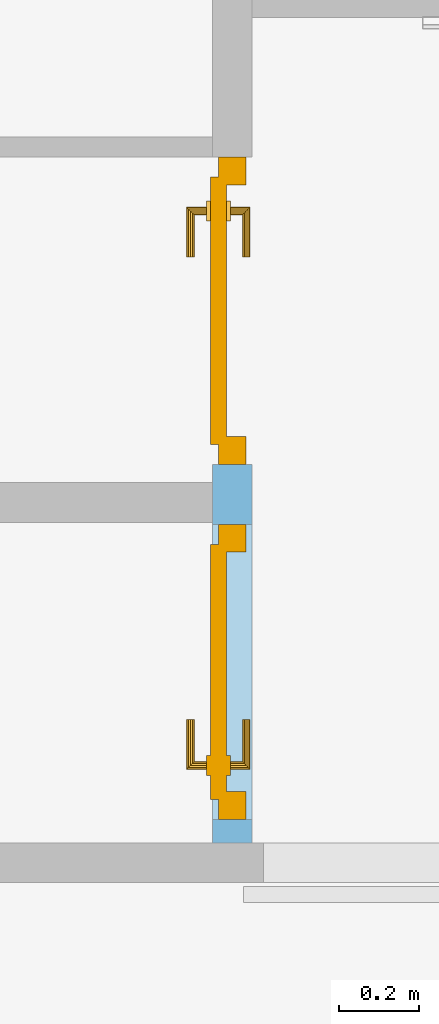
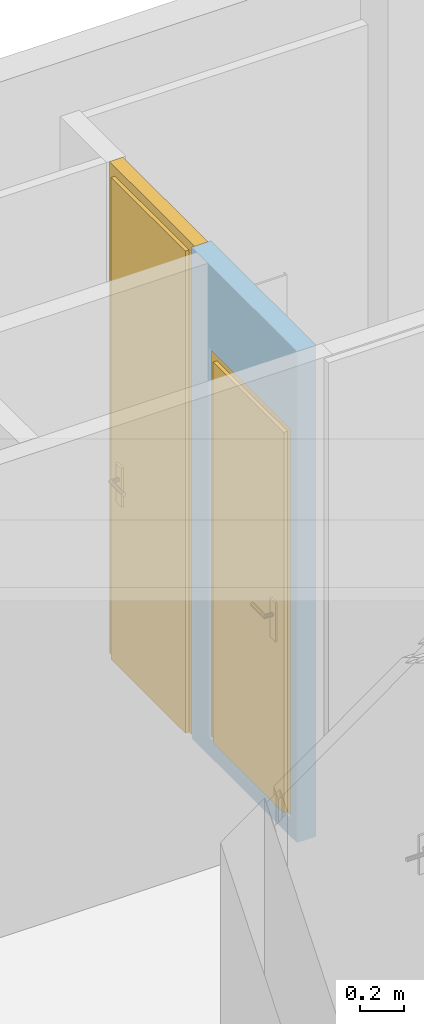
"""IFC4 building model written with IfcOpenShell, lengths in metres."""

from ifc_helpers import new_model, entity, si_unit, converted_unit, derived_unit, frame, origin, origin_with_axes, place, context, subcontext, project, spatial, polyline, outline, extrude, faceted_brep, source, transform, mapped, material, layer, layer_set, layer_usage, element, fill, save


model = new_model("IFC4")

# Units and contexts
model_context = context("Model", 3, precision=1e-05, world=origin())
body_context = subcontext(model_context, "Body", "Model", "MODEL_VIEW")
ifc_project = project(units=[si_unit("LENGTHUNIT", "METRE"), si_unit("AREAUNIT", "SQUARE_METRE"), si_unit("VOLUMEUNIT", "CUBIC_METRE"), si_unit("MASSUNIT", "GRAM", prefix="KILO"), converted_unit("PLANEANGLEUNIT", "DEGREE", entity("IfcPlaneAngleMeasure", 0.0174532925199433), si_unit("PLANEANGLEUNIT", "RADIAN"), dimensions=[0, 0, 0, 0, 0, 0, 0]), derived_unit("THERMALTRANSMITTANCEUNIT", [(si_unit("POWERUNIT", "WATT"), 1), (si_unit("THERMODYNAMICTEMPERATUREUNIT", "KELVIN"), -1), (si_unit("LENGTHUNIT", "METRE"), -2)]), derived_unit("VOLUMETRICFLOWRATEUNIT", [(si_unit("LENGTHUNIT", "METRE"), 3), (converted_unit("TIMEUNIT", "hour", entity("IfcTimeMeasure", 3600.0), si_unit("TIMEUNIT", "SECOND"), dimensions=[0, 0, 1, 0, 0, 0, 0]), -1), (si_unit("LENGTHUNIT", "METRE"), -1)])], contexts=[model_context])

# Building, storeys
building_placement = place(None, origin())
building = spatial("IfcBuilding", under=ifc_project, at=building_placement, Name="HABITATGE PLURIFAMILIAR", CompositionType="ELEMENT")
storey_1_placement = place(building_placement, frame((0.0, 0.0, 12.27)))
storey_1 = spatial("IfcBuildingStorey", under=building, at=storey_1_placement, Name="PLANTA TERCERA", CompositionType="ELEMENT", Elevation=12.27)
storey_2_placement = place(storey_1_placement, frame((0.0, 0.0, 9.26)))
storey_2 = spatial("IfcBuildingStorey", under=storey_1, at=storey_2_placement, Name="NOU", CompositionType="PARTIAL")

# Wall, openings, doors
ifc_material = material()
ifc_layer = layer(ifc_material, 0.1)
ifc_layer_set = layer_set([ifc_layer])
ifc_layer_usage = layer_usage(ifc_layer_set, "AXIS2", "POSITIVE", 0.0)
wall_placement = place(storey_2_placement, frame((408.986984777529, 25.9294598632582, -9.36), z_axis=(0.0, 0.0, 1.0), x_axis=(0.0, 1.0, 0.0)))
wall = element("IfcWall", 1, at=wall_placement, inside=storey_2, material=ifc_layer_usage, Name="Evans P3", context=body_context, shape_type="SweptSolid", body=[
    extrude(outline(polyline([(0.0, -0.1), (1.72, -0.1), (1.72, 0.0), (0.904079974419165, 0.0), (0.804079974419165, 0.0), (0.0, 0.0), (0.0, -0.1)])), frame((0.0, 0.1, 0.0), z_axis=(0.0, 0.0, 1.0), x_axis=(1.0, 0.0, 0.0)), (0.0, 0.0, 1.0), 2.71),
])
opening_1_placement = place(wall_placement, frame((1.72, 0.1, 0.0), z_axis=(0.0, -1.0, 0.0), x_axis=(0.0, 0.0, 1.0)))
opening_1 = element("IfcOpeningElement", 2, at=opening_1_placement, cuts=wall, Name="Vano porta P3", ObjectType="Opening", context=body_context, shape_type="SweptSolid", body=[
    extrude(outline(polyline([(2.71, 0.771026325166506), (2.71, 0.0), (0.0, 0.0), (0.0, 0.771026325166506), (2.71, 0.771026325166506)])), origin_with_axes(), (0.0, 0.0, 1.0), 0.1),
])
opening_2_placement = place(wall_placement, frame((0.798973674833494, 0.1, 0.1), z_axis=(0.0, -1.0, 0.0), x_axis=(0.0, 0.0, 1.0)))
opening_2 = element("IfcOpeningElement", 3, at=opening_2_placement, cuts=wall, Name="Vano porta P3", ObjectType="Opening", context=body_context, shape_type="SweptSolid", body=[
    extrude(outline(polyline([(2.15, 0.74), (2.15, 0.0), (0.0, 0.0), (0.0, 0.74), (2.15, 0.74)])), origin_with_axes(), (0.0, 0.0, 1.0), 0.1),
])
shared_shape_1 = source(origin_with_axes(), body_context, "Body", "Brep", [
    faceted_brep([(0.771026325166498, 0.0700000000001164, 2.71), (0.701026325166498, 0.0700000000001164, 2.71), (0.701026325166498, 0.0700000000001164, 0.0), (0.771026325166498, 0.0700000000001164, 0.0), (0.771026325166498, 0.0, 0.0), (0.701026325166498, 0.0, 0.0), (0.701026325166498, 0.0, 2.71), (0.771026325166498, 0.0, 2.71)], [[[0, 1, 2, 3]], [[4, 5, 6, 7]], [[3, 4, 7, 0]], [[2, 5, 4, 3]], [[1, 6, 5, 2]], [[0, 7, 6, 1]]], orient=[[False], [False], [False], [False], [False], [False]]),
    faceted_brep([(0.0699999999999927, 0.0700000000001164, 2.71), (0.0, 0.0700000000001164, 2.71), (0.0, 0.0700000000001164, 0.0), (0.0699999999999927, 0.0700000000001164, 0.0), (0.0699999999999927, 0.0, 0.0), (0.0, 0.0, 0.0), (0.0, 0.0, 2.71), (0.0699999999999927, 0.0, 2.71)], [[[0, 1, 2, 3]], [[4, 5, 6, 7]], [[3, 4, 7, 0]], [[2, 5, 4, 3]], [[1, 6, 5, 2]], [[0, 7, 6, 1]]], orient=[[False], [False], [False], [False], [False], [False]]),
    faceted_brep([(0.701026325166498, 0.0700000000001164, 2.71), (0.0699999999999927, 0.0700000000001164, 2.71), (0.0699999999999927, 0.0700000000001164, 2.64), (0.701026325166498, 0.0700000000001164, 2.64), (0.701026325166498, 0.0, 2.64), (0.0699999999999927, 0.0, 2.64), (0.0699999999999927, 0.0, 2.71), (0.701026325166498, 0.0, 2.71)], [[[0, 1, 2, 3]], [[4, 5, 6, 7]], [[3, 4, 7, 0]], [[2, 5, 4, 3]], [[1, 6, 5, 2]], [[0, 7, 6, 1]]], orient=[[False], [False], [False], [False], [False], [False]]),
    faceted_brep([(0.721026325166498, 0.0900000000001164, 2.66), (0.0499999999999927, 0.0900000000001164, 2.66), (0.0499999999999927, 0.0900000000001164, 0.0), (0.721026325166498, 0.0900000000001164, 0.0), (0.721026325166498, 0.0500000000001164, 0.0), (0.0499999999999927, 0.0500000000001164, 0.0), (0.0499999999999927, 0.0500000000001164, 2.66), (0.721026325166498, 0.0500000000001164, 2.66)], [[[0, 1, 2, 3]], [[4, 5, 6, 7]], [[3, 4, 7, 0]], [[2, 5, 4, 3]], [[1, 6, 5, 2]], [[0, 7, 6, 1]]], orient=[[False], [False], [False], [False], [False], [False]]),
    faceted_brep([(0.661026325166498, 0.0500000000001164, 1.125), (0.611026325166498, 0.0500000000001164, 1.125), (0.611026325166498, 0.0500000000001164, 0.91), (0.661026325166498, 0.0500000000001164, 0.91), (0.661026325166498, 0.0400000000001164, 0.91), (0.611026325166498, 0.0400000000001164, 0.91), (0.611026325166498, 0.0400000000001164, 1.125), (0.661026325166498, 0.0400000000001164, 1.125)], [[[0, 1, 2, 3]], [[4, 5, 6, 7]], [[3, 4, 7, 0]], [[2, 5, 4, 3]], [[1, 6, 5, 2]], [[0, 7, 6, 1]]], orient=[[False], [False], [False], [False], [False], [False]]),
    faceted_brep([(0.636026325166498, 0.0400000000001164, 1.06), (0.631026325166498, 0.0400000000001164, 1.05866025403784), (0.627366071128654, 0.0400000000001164, 1.055), (0.626026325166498, 0.0400000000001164, 1.05), (0.627366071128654, 0.0400000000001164, 1.045), (0.631026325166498, 0.0400000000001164, 1.04133974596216), (0.636026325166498, 0.0400000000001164, 1.04), (0.641026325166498, 0.0400000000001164, 1.04133974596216), (0.644686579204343, 0.0400000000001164, 1.045), (0.646026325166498, 0.0400000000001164, 1.05), (0.644686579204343, 0.0400000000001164, 1.055), (0.641026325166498, 0.0400000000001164, 1.05866025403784), (0.641026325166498, -0.00499999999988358, 1.05866025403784), (0.636026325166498, 0.0, 1.06), (0.644686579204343, -0.00866025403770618, 1.055), (0.646026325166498, -0.00999999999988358, 1.05), (0.644686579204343, -0.00866025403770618, 1.045), (0.641026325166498, -0.00499999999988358, 1.04133974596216), (0.636026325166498, 0.0, 1.04), (0.631026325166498, 0.00500000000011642, 1.04133974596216), (0.627366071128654, 0.00866025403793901, 1.045), (0.626026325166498, 0.0100000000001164, 1.05), (0.627366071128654, 0.00866025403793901, 1.055), (0.631026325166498, 0.00500000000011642, 1.05866025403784), (0.521026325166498, 0.0, 1.06), (0.521026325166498, -0.00499999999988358, 1.05866025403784), (0.521026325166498, -0.00866025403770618, 1.055), (0.521026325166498, -0.00999999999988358, 1.05), (0.521026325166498, -0.00866025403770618, 1.045), (0.521026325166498, -0.00499999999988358, 1.04133974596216), (0.521026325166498, 0.0, 1.04), (0.521026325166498, 0.00500000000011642, 1.04133974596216), (0.521026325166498, 0.00866025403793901, 1.045), (0.521026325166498, 0.0100000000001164, 1.05), (0.521026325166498, 0.00866025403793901, 1.055), (0.521026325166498, 0.00500000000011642, 1.05866025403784)], [[[0, 1, 2, 3, 4, 5, 6, 7, 8, 9, 10, 11]], [[0, 11, 12, 13]], [[11, 10, 14, 12]], [[10, 9, 15, 14]], [[9, 8, 16, 15]], [[8, 7, 17, 16]], [[7, 6, 18, 17]], [[6, 5, 19, 18]], [[5, 4, 20, 19]], [[4, 3, 21, 20]], [[3, 2, 22, 21]], [[2, 1, 23, 22]], [[1, 0, 13, 23]], [[24, 25, 26, 27, 28, 29, 30, 31, 32, 33, 34, 35]], [[13, 12, 25, 24]], [[12, 14, 26, 25]], [[14, 15, 27, 26]], [[15, 16, 28, 27]], [[16, 17, 29, 28]], [[17, 18, 30, 29]], [[18, 19, 31, 30]], [[19, 20, 32, 31]], [[20, 21, 33, 32]], [[21, 22, 34, 33]], [[22, 23, 35, 34]], [[23, 13, 24, 35]]], orient=[[False], [False], [False], [False], [False], [False], [False], [False], [False], [False], [False], [False], [False], [False], [False], [False], [False], [False], [False], [False], [False], [False], [False], [False], [False], [False]]),
    faceted_brep([(0.661026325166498, 0.0900000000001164, 1.125), (0.661026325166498, 0.0900000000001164, 0.91), (0.611026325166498, 0.0900000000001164, 0.91), (0.611026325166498, 0.0900000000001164, 1.125), (0.661026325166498, 0.100000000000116, 0.91), (0.661026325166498, 0.100000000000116, 1.125), (0.611026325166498, 0.100000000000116, 1.125), (0.611026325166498, 0.100000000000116, 0.91)], [[[0, 1, 2, 3]], [[4, 5, 6, 7]], [[1, 0, 5, 4]], [[2, 1, 4, 7]], [[3, 2, 7, 6]], [[0, 3, 6, 5]]], orient=[[False], [False], [False], [False], [False], [False]]),
    faceted_brep([(0.636026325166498, 0.100000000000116, 1.06), (0.641026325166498, 0.100000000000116, 1.05866025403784), (0.644686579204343, 0.100000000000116, 1.055), (0.646026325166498, 0.100000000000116, 1.05), (0.644686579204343, 0.100000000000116, 1.045), (0.641026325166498, 0.100000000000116, 1.04133974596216), (0.636026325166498, 0.100000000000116, 1.04), (0.631026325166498, 0.100000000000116, 1.04133974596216), (0.627366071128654, 0.100000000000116, 1.045), (0.626026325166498, 0.100000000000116, 1.05), (0.627366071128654, 0.100000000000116, 1.055), (0.631026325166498, 0.100000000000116, 1.05866025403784), (0.636026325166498, 0.140000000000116, 1.06), (0.641026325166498, 0.145000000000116, 1.05866025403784), (0.644686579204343, 0.148660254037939, 1.055), (0.646026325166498, 0.150000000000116, 1.05), (0.644686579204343, 0.148660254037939, 1.045), (0.641026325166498, 0.145000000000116, 1.04133974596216), (0.636026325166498, 0.140000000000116, 1.04), (0.631026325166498, 0.135000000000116, 1.04133974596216), (0.627366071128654, 0.131339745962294, 1.045), (0.626026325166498, 0.130000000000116, 1.05), (0.627366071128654, 0.131339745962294, 1.055), (0.631026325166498, 0.135000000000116, 1.05866025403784), (0.521026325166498, 0.140000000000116, 1.06), (0.521026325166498, 0.135000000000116, 1.05866025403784), (0.521026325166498, 0.131339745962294, 1.055), (0.521026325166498, 0.130000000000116, 1.05), (0.521026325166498, 0.131339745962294, 1.045), (0.521026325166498, 0.135000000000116, 1.04133974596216), (0.521026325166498, 0.140000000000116, 1.04), (0.521026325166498, 0.145000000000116, 1.04133974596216), (0.521026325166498, 0.148660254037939, 1.045), (0.521026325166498, 0.150000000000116, 1.05), (0.521026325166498, 0.148660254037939, 1.055), (0.521026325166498, 0.145000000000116, 1.05866025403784)], [[[0, 1, 2, 3, 4, 5, 6, 7, 8, 9, 10, 11]], [[0, 12, 13, 1]], [[1, 13, 14, 2]], [[2, 14, 15, 3]], [[3, 15, 16, 4]], [[4, 16, 17, 5]], [[5, 17, 18, 6]], [[6, 18, 19, 7]], [[7, 19, 20, 8]], [[8, 20, 21, 9]], [[9, 21, 22, 10]], [[10, 22, 23, 11]], [[11, 23, 12, 0]], [[24, 25, 26, 27, 28, 29, 30, 31, 32, 33, 34, 35]], [[12, 24, 35, 13]], [[13, 35, 34, 14]], [[14, 34, 33, 15]], [[15, 33, 32, 16]], [[16, 32, 31, 17]], [[17, 31, 30, 18]], [[18, 30, 29, 19]], [[19, 29, 28, 20]], [[20, 28, 27, 21]], [[21, 27, 26, 22]], [[22, 26, 25, 23]], [[23, 25, 24, 12]]], orient=[[False], [False], [False], [False], [False], [False], [False], [False], [False], [False], [False], [False], [False], [False], [False], [False], [False], [False], [False], [False], [False], [False], [False], [False], [False], [False]]),
])
door_1_placement = place(opening_1_placement, frame((0.0, 0.771026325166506, 0.085), z_axis=(1.0, 0.0, 0.0), x_axis=(0.0, -1.0, 0.0)))
door_1 = element("IfcDoor", 4, at=door_1_placement, inside=storey_2, Name="Porta P3", OperationType="USERDEFINED", OverallHeight=2.71, OverallWidth=0.77103, PredefinedType="DOOR", context=body_context, shape_type="MappedRepresentation", body=[
    mapped(shared_shape_1, transform((0.0, 0.0, 0.0), x_axis=(1.0, 0.0, 0.0), y_axis=(0.0, 1.0, 0.0), z_axis=(0.0, 0.0, 1.0), scale=1.0)),
])
fill(opening_1, door_1)
shared_shape_2 = source(origin_with_axes(), body_context, "Body", "Brep", [
    faceted_brep([(0.0, 0.0700000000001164, 2.15), (0.0, 0.0700000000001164, 0.0), (0.0699999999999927, 0.0700000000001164, 0.0), (0.0699999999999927, 0.0700000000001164, 2.15), (0.0, 0.0, 0.0), (0.0, 0.0, 2.15), (0.0699999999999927, 0.0, 2.15), (0.0699999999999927, 0.0, 0.0)], [[[0, 1, 2, 3]], [[4, 5, 6, 7]], [[1, 0, 5, 4]], [[2, 1, 4, 7]], [[3, 2, 7, 6]], [[0, 3, 6, 5]]], orient=[[False], [False], [False], [False], [False], [False]]),
    faceted_brep([(0.669999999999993, 0.0700000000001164, 2.15), (0.669999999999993, 0.0700000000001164, 0.0), (0.739999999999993, 0.0700000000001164, 0.0), (0.739999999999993, 0.0700000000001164, 2.15), (0.669999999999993, 0.0, 0.0), (0.669999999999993, 0.0, 2.15), (0.739999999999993, 0.0, 2.15), (0.739999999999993, 0.0, 0.0)], [[[0, 1, 2, 3]], [[4, 5, 6, 7]], [[1, 0, 5, 4]], [[2, 1, 4, 7]], [[3, 2, 7, 6]], [[0, 3, 6, 5]]], orient=[[False], [False], [False], [False], [False], [False]]),
    faceted_brep([(0.0699999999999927, 0.0700000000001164, 2.15), (0.0699999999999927, 0.0700000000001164, 2.08), (0.669999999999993, 0.0700000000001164, 2.08), (0.669999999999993, 0.0700000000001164, 2.15), (0.0699999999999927, 0.0, 2.08), (0.0699999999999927, 0.0, 2.15), (0.669999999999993, 0.0, 2.15), (0.669999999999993, 0.0, 2.08)], [[[0, 1, 2, 3]], [[4, 5, 6, 7]], [[1, 0, 5, 4]], [[2, 1, 4, 7]], [[3, 2, 7, 6]], [[0, 3, 6, 5]]], orient=[[False], [False], [False], [False], [False], [False]]),
    faceted_brep([(0.0499999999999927, 0.0900000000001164, 2.1), (0.0499999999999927, 0.0900000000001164, 0.0), (0.689999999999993, 0.0900000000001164, 0.0), (0.689999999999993, 0.0900000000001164, 2.1), (0.0499999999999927, 0.0500000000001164, 0.0), (0.0499999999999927, 0.0500000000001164, 2.1), (0.689999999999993, 0.0500000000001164, 2.1), (0.689999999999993, 0.0500000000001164, 0.0)], [[[0, 1, 2, 3]], [[4, 5, 6, 7]], [[1, 0, 5, 4]], [[2, 1, 4, 7]], [[3, 2, 7, 6]], [[0, 3, 6, 5]]], orient=[[False], [False], [False], [False], [False], [False]]),
    faceted_brep([(0.109999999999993, 0.0500000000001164, 1.125), (0.109999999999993, 0.0500000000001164, 0.91), (0.159999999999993, 0.0500000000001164, 0.91), (0.159999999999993, 0.0500000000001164, 1.125), (0.109999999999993, 0.0400000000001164, 0.91), (0.109999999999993, 0.0400000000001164, 1.125), (0.159999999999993, 0.0400000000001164, 1.125), (0.159999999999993, 0.0400000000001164, 0.91)], [[[0, 1, 2, 3]], [[4, 5, 6, 7]], [[1, 0, 5, 4]], [[2, 1, 4, 7]], [[3, 2, 7, 6]], [[0, 3, 6, 5]]], orient=[[False], [False], [False], [False], [False], [False]]),
    faceted_brep([(0.134999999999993, 0.0400000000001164, 1.06), (0.129999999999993, 0.0400000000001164, 1.05866025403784), (0.126339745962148, 0.0400000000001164, 1.055), (0.124999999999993, 0.0400000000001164, 1.05), (0.126339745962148, 0.0400000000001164, 1.045), (0.129999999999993, 0.0400000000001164, 1.04133974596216), (0.134999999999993, 0.0400000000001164, 1.04), (0.139999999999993, 0.0400000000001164, 1.04133974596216), (0.143660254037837, 0.0400000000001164, 1.045), (0.144999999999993, 0.0400000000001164, 1.05), (0.143660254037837, 0.0400000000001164, 1.055), (0.139999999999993, 0.0400000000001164, 1.05866025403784), (0.134999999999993, 0.0, 1.06), (0.129999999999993, -0.00499999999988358, 1.05866025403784), (0.126339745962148, -0.00866025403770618, 1.055), (0.124999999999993, -0.00999999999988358, 1.05), (0.126339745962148, -0.00866025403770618, 1.045), (0.129999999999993, -0.00499999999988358, 1.04133974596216), (0.134999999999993, 0.0, 1.04), (0.139999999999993, 0.00500000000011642, 1.04133974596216), (0.143660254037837, 0.00866025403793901, 1.045), (0.144999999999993, 0.0100000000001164, 1.05), (0.143660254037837, 0.00866025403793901, 1.055), (0.139999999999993, 0.00500000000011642, 1.05866025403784), (0.249999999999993, 0.0, 1.06), (0.249999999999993, 0.00500000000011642, 1.05866025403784), (0.249999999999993, 0.00866025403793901, 1.055), (0.249999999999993, 0.0100000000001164, 1.05), (0.249999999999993, 0.00866025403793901, 1.045), (0.249999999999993, 0.00500000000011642, 1.04133974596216), (0.249999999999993, 0.0, 1.04), (0.249999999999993, -0.00499999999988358, 1.04133974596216), (0.249999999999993, -0.00866025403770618, 1.045), (0.249999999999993, -0.00999999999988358, 1.05), (0.249999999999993, -0.00866025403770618, 1.055), (0.249999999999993, -0.00499999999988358, 1.05866025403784)], [[[0, 1, 2, 3, 4, 5, 6, 7, 8, 9, 10, 11]], [[0, 12, 13, 1]], [[1, 13, 14, 2]], [[2, 14, 15, 3]], [[3, 15, 16, 4]], [[4, 16, 17, 5]], [[5, 17, 18, 6]], [[6, 18, 19, 7]], [[7, 19, 20, 8]], [[8, 20, 21, 9]], [[9, 21, 22, 10]], [[10, 22, 23, 11]], [[11, 23, 12, 0]], [[24, 25, 26, 27, 28, 29, 30, 31, 32, 33, 34, 35]], [[12, 24, 35, 13]], [[13, 35, 34, 14]], [[14, 34, 33, 15]], [[15, 33, 32, 16]], [[16, 32, 31, 17]], [[17, 31, 30, 18]], [[18, 30, 29, 19]], [[19, 29, 28, 20]], [[20, 28, 27, 21]], [[21, 27, 26, 22]], [[22, 26, 25, 23]], [[23, 25, 24, 12]]], orient=[[False], [False], [False], [False], [False], [False], [False], [False], [False], [False], [False], [False], [False], [False], [False], [False], [False], [False], [False], [False], [False], [False], [False], [False], [False], [False]]),
    faceted_brep([(0.109999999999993, 0.0900000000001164, 1.125), (0.159999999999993, 0.0900000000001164, 1.125), (0.159999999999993, 0.0900000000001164, 0.91), (0.109999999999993, 0.0900000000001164, 0.91), (0.109999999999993, 0.100000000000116, 0.91), (0.159999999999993, 0.100000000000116, 0.91), (0.159999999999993, 0.100000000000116, 1.125), (0.109999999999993, 0.100000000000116, 1.125)], [[[0, 1, 2, 3]], [[4, 5, 6, 7]], [[3, 4, 7, 0]], [[2, 5, 4, 3]], [[1, 6, 5, 2]], [[0, 7, 6, 1]]], orient=[[False], [False], [False], [False], [False], [False]]),
    faceted_brep([(0.134999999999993, 0.100000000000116, 1.06), (0.139999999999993, 0.100000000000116, 1.05866025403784), (0.143660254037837, 0.100000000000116, 1.055), (0.144999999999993, 0.100000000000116, 1.05), (0.143660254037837, 0.100000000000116, 1.045), (0.139999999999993, 0.100000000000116, 1.04133974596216), (0.134999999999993, 0.100000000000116, 1.04), (0.129999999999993, 0.100000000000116, 1.04133974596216), (0.126339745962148, 0.100000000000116, 1.045), (0.124999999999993, 0.100000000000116, 1.05), (0.126339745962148, 0.100000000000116, 1.055), (0.129999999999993, 0.100000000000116, 1.05866025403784), (0.129999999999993, 0.145000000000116, 1.05866025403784), (0.134999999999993, 0.140000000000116, 1.06), (0.126339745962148, 0.148660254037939, 1.055), (0.124999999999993, 0.150000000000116, 1.05), (0.126339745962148, 0.148660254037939, 1.045), (0.129999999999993, 0.145000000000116, 1.04133974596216), (0.134999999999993, 0.140000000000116, 1.04), (0.139999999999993, 0.135000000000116, 1.04133974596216), (0.143660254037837, 0.131339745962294, 1.045), (0.144999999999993, 0.130000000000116, 1.05), (0.143660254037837, 0.131339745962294, 1.055), (0.139999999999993, 0.135000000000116, 1.05866025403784), (0.249999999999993, 0.140000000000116, 1.06), (0.249999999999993, 0.145000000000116, 1.05866025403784), (0.249999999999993, 0.148660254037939, 1.055), (0.249999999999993, 0.150000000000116, 1.05), (0.249999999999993, 0.148660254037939, 1.045), (0.249999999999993, 0.145000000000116, 1.04133974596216), (0.249999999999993, 0.140000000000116, 1.04), (0.249999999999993, 0.135000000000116, 1.04133974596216), (0.249999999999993, 0.131339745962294, 1.045), (0.249999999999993, 0.130000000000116, 1.05), (0.249999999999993, 0.131339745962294, 1.055), (0.249999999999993, 0.135000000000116, 1.05866025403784)], [[[0, 1, 2, 3, 4, 5, 6, 7, 8, 9, 10, 11]], [[0, 11, 12, 13]], [[11, 10, 14, 12]], [[10, 9, 15, 14]], [[9, 8, 16, 15]], [[8, 7, 17, 16]], [[7, 6, 18, 17]], [[6, 5, 19, 18]], [[5, 4, 20, 19]], [[4, 3, 21, 20]], [[3, 2, 22, 21]], [[2, 1, 23, 22]], [[1, 0, 13, 23]], [[24, 25, 26, 27, 28, 29, 30, 31, 32, 33, 34, 35]], [[13, 12, 25, 24]], [[12, 14, 26, 25]], [[14, 15, 27, 26]], [[15, 16, 28, 27]], [[16, 17, 29, 28]], [[17, 18, 30, 29]], [[18, 19, 31, 30]], [[19, 20, 32, 31]], [[20, 21, 33, 32]], [[21, 22, 34, 33]], [[22, 23, 35, 34]], [[23, 13, 24, 35]]], orient=[[False], [False], [False], [False], [False], [False], [False], [False], [False], [False], [False], [False], [False], [False], [False], [False], [False], [False], [False], [False], [False], [False], [False], [False], [False], [False]]),
])
door_2_placement = place(opening_2_placement, frame((0.0, 0.74, 0.085), z_axis=(1.0, 0.0, 0.0), x_axis=(0.0, -1.0, 0.0)))
door_2 = element("IfcDoor", 5, at=door_2_placement, inside=storey_2, Name="Porta P3", OperationType="USERDEFINED", OverallHeight=2.15, OverallWidth=0.74, PredefinedType="DOOR", context=body_context, shape_type="MappedRepresentation", body=[
    mapped(shared_shape_2, transform((0.0, 0.0, 0.0), x_axis=(1.0, 0.0, 0.0), y_axis=(0.0, 1.0, 0.0), z_axis=(0.0, 0.0, 1.0), scale=1.0)),
])
fill(opening_2, door_2)

save(model, "model.ifc")
